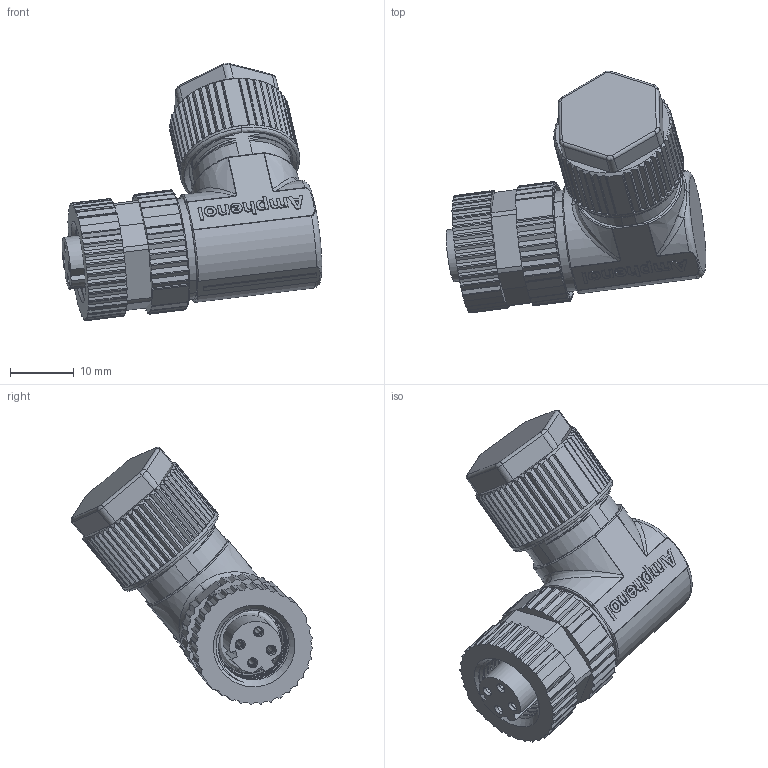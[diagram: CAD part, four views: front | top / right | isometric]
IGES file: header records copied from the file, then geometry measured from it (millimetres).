
Start section:  PTC IGES file: msds-04bffc-sr7001_as_sw0001.igs
Global section: file name: msds-04bffc-sr7001_as_sw0001.igs; native system: Creo Parametric by Parametric Technology Corporation; preprocessor: 2013050; author: K180137; organization: Unknown; date: 20191115.182606; units: millimetre
Bounding box: 40.72 x 37.92 x 40.39 mm (x, y, z)
Volume: 13267 mm3; surface area: 9458.8 mm2
Topology: 1 solids, 3 shells, 1411 faces, 3994 edges, 2585 vertices
Faces by surface type: bspline 748, revolution 577, extrusion 86
